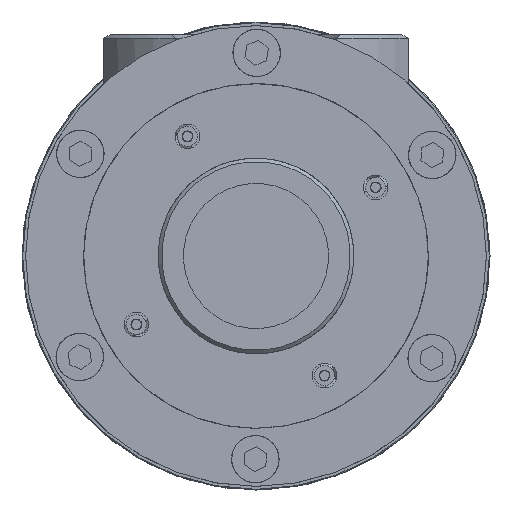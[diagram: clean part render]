
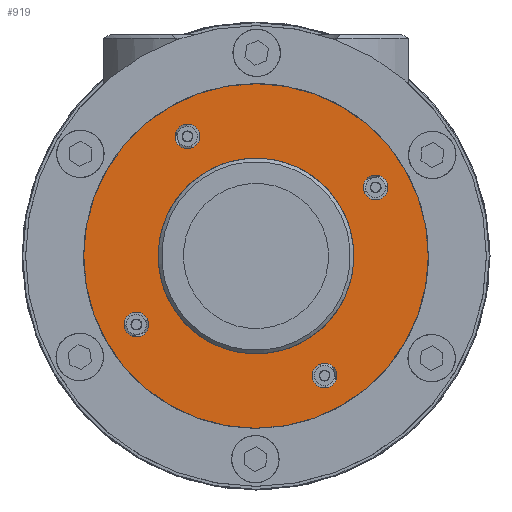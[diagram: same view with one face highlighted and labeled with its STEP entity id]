
A CAD part, left-side view. The second image highlights one B-rep face of the part: STEP entity #919.
In plain terms, the highlighted planar face has unit normal (-1, 0, 0) as drawn and (0, -1, 0) by its records, which use the part's own axes.
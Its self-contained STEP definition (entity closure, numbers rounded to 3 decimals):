
#919 = ADVANCED_FACE( '', ( #1839, #1840, #1841, #1842, #1843, #1844 ), #1845, .F. );
#1839 = FACE_OUTER_BOUND( '', #2909, .T. );
#1840 = FACE_BOUND( '', #2910, .T. );
#1841 = FACE_BOUND( '', #2911, .T. );
#1842 = FACE_BOUND( '', #2912, .T. );
#1843 = FACE_BOUND( '', #2913, .T. );
#1844 = FACE_BOUND( '', #2914, .T. );
#1845 = PLANE( '', #2915 );
#2909 = EDGE_LOOP( '', ( #5087 ) );
#2910 = EDGE_LOOP( '', ( #5088 ) );
#2911 = EDGE_LOOP( '', ( #5089 ) );
#2912 = EDGE_LOOP( '', ( #5090 ) );
#2913 = EDGE_LOOP( '', ( #5091 ) );
#2914 = EDGE_LOOP( '', ( #5092 ) );
#2915 = AXIS2_PLACEMENT_3D( '', #5093, #5094, #5095 );
#5087 = ORIENTED_EDGE( '', *, *, #6496, .T. );
#5088 = ORIENTED_EDGE( '', *, *, #6499, .F. );
#5089 = ORIENTED_EDGE( '', *, *, #6497, .F. );
#5090 = ORIENTED_EDGE( '', *, *, #6500, .F. );
#5091 = ORIENTED_EDGE( '', *, *, #6501, .F. );
#5092 = ORIENTED_EDGE( '', *, *, #6502, .F. );
#5093 = CARTESIAN_POINT( '', ( 0., 0., 47.5 ) );
#5094 = DIRECTION( '', ( 0., 1., 0. ) );
#5095 = DIRECTION( '', ( 1., 0., 0. ) );
#6496 = EDGE_CURVE( '', #7610, #7610, #7611, .T. );
#6497 = EDGE_CURVE( '', #7612, #7612, #7613, .T. );
#6499 = EDGE_CURVE( '', #7616, #7616, #7617, .T. );
#6500 = EDGE_CURVE( '', #7618, #7618, #7619, .T. );
#6501 = EDGE_CURVE( '', #7620, #7620, #7621, .T. );
#6502 = EDGE_CURVE( '', #7622, #7622, #7623, .T. );
#7610 = VERTEX_POINT( '', #9540 );
#7611 = CIRCLE( '', #9541, 47.5 );
#7612 = VERTEX_POINT( '', #9542 );
#7613 = CIRCLE( '', #9543, 3.4 );
#7616 = VERTEX_POINT( '', #9546 );
#7617 = CIRCLE( '', #9547, 3.4 );
#7618 = VERTEX_POINT( '', #9548 );
#7619 = CIRCLE( '', #9549, 3.4 );
#7620 = VERTEX_POINT( '', #9550 );
#7621 = CIRCLE( '', #9551, 3.4 );
#7622 = VERTEX_POINT( '', #9552 );
#7623 = CIRCLE( '', #9553, 27. );
#9540 = CARTESIAN_POINT( '', ( 0., 0., -47.5 ) );
#9541 = AXIS2_PLACEMENT_3D( '', #11379, #11380, #11381 );
#9542 = CARTESIAN_POINT( '', ( -3.4, 0., -38. ) );
#9543 = AXIS2_PLACEMENT_3D( '', #11382, #11383, #11384 );
#9546 = CARTESIAN_POINT( '', ( -38., 0., 3.4 ) );
#9547 = AXIS2_PLACEMENT_3D( '', #11388, #11389, #11390 );
#9548 = CARTESIAN_POINT( '', ( 38., 0., -3.4 ) );
#9549 = AXIS2_PLACEMENT_3D( '', #11391, #11392, #11393 );
#9550 = CARTESIAN_POINT( '', ( 3.4, 0., 38. ) );
#9551 = AXIS2_PLACEMENT_3D( '', #11394, #11395, #11396 );
#9552 = CARTESIAN_POINT( '', ( 0., 0., -27. ) );
#9553 = AXIS2_PLACEMENT_3D( '', #11397, #11398, #11399 );
#11379 = CARTESIAN_POINT( '', ( 0., 0., 0. ) );
#11380 = DIRECTION( '', ( 0., -1., 0. ) );
#11381 = DIRECTION( '', ( 0., 0., -1. ) );
#11382 = CARTESIAN_POINT( '', ( 0., 0., -38. ) );
#11383 = DIRECTION( '', ( 0., -1., 0. ) );
#11384 = DIRECTION( '', ( -1., 0., 0. ) );
#11388 = CARTESIAN_POINT( '', ( -38., 0., 0. ) );
#11389 = DIRECTION( '', ( 0., -1., 0. ) );
#11390 = DIRECTION( '', ( 0., 0., 1. ) );
#11391 = CARTESIAN_POINT( '', ( 38., 0., 0. ) );
#11392 = DIRECTION( '', ( 0., -1., 0. ) );
#11393 = DIRECTION( '', ( 0., 0., -1. ) );
#11394 = CARTESIAN_POINT( '', ( 0., 0., 38. ) );
#11395 = DIRECTION( '', ( 0., -1., 0. ) );
#11396 = DIRECTION( '', ( 1., 0., 0. ) );
#11397 = CARTESIAN_POINT( '', ( 0., 0., 0. ) );
#11398 = DIRECTION( '', ( 0., -1., 0. ) );
#11399 = DIRECTION( '', ( 0., 0., -1. ) );
